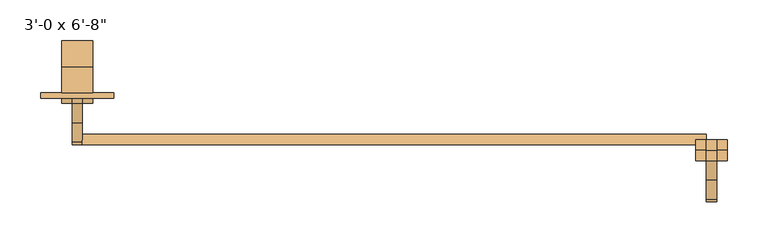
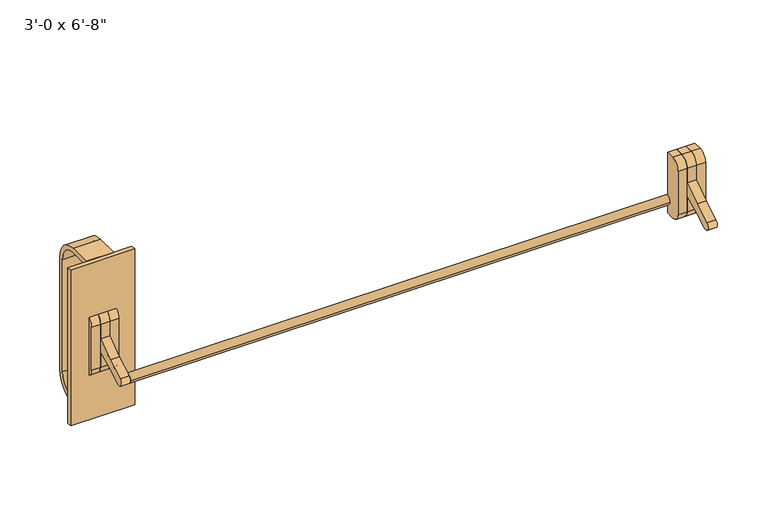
"""IFC4 building model written with IfcOpenShell, lengths in millimetres: door geometry."""

import ifcopenshell
import ifcopenshell.guid

model = None  # the IFC model being written
_history = None  # IfcOwnerHistory: only IFC2X3 demands one
_inside = {}  # id of a spatial element -> (the spatial element, [elements in it])
_under = {}  # id of a project, library or spatial element -> (it, [spatial elements below it])
_declared = {}  # id of a project -> (the project, [libraries it declares])
_typed = {}  # id of a type object -> (the type object, [elements of that type])
_made_of = {}  # id of a material, layer set ... -> (it, [elements and type objects made of it])


def new_model(schema):
    """Start an empty IFC model of exactly this schema.

    Asked for "IFC4X3", IfcOpenShell would pick the latest addendum, in which some entities
    have other attributes; the version numbers below select the first issue.
    IFC2X3 requires an IfcOwnerHistory on every rooted entity: one is made here for all.
    """
    global model, _history
    if schema == "IFC4X3":
        model = ifcopenshell.file(schema_version=(4, 3, 0, 0))
    else:
        model = ifcopenshell.file(schema=schema)
    _inside.clear()
    _under.clear()
    _declared.clear()
    _typed.clear()
    _made_of.clear()
    _history = None
    if model.schema == "IFC2X3":
        org = make("IfcOrganization", Name="unknown")
        user = make(
            "IfcPersonAndOrganization",
            ThePerson=make("IfcPerson", FamilyName="unknown"),
            TheOrganization=org,
        )
        app = make(
            "IfcApplication",
            ApplicationDeveloper=org,
            Version="unknown",
            ApplicationFullName="unknown",
            ApplicationIdentifier="unknown",
        )
        _history = make(
            "IfcOwnerHistory",
            OwningUser=user,
            OwningApplication=app,
            ChangeAction="ADDED",
            CreationDate=0,
        )
    return model


def make(cls, **values):
    """One entity of the class cls with the attributes given. An attribute that is None is left unset."""
    return model.create_entity(
        cls, **{name: value for name, value in values.items() if value is not None}
    )


def rooted(cls, **values):
    """An entity with a GlobalId (a new one), such as an element, a storey or a relation."""
    return make(cls, GlobalId=ifcopenshell.guid.new(), OwnerHistory=_history, **values)


def si_unit(unit_type, name, prefix=None):
    """IfcSIUnit, for example si_unit("LENGTHUNIT", "METRE", prefix="MILLI")."""
    return make("IfcSIUnit", UnitType=unit_type, Prefix=prefix, Name=name)


def assignment(units):
    """IfcUnitAssignment: the units of a project."""
    return None if units is None else make("IfcUnitAssignment", Units=units)


def point(xyz):
    """IfcCartesianPoint."""
    return None if xyz is None else make("IfcCartesianPoint", Coordinates=xyz)


def direction(xyz):
    """IfcDirection."""
    return None if xyz is None else make("IfcDirection", DirectionRatios=xyz)


def frame(location, z_axis=None, x_axis=None):
    """IfcAxis2Placement3D, a coordinate frame: its origin and axes. An axis left out is left unset."""
    return make(
        "IfcAxis2Placement3D",
        Location=point(location),
        Axis=direction(z_axis),
        RefDirection=direction(x_axis),
    )


def frame_2d(location, x_axis=None):
    """IfcAxis2Placement2D, a coordinate frame in the plane: its origin and x axis."""
    return make(
        "IfcAxis2Placement2D", Location=point(location), RefDirection=direction(x_axis)
    )


def origin():
    """The frame at (0, 0, 0) with its axes left unset."""
    return frame((0.0, 0.0, 0.0))


def place(relative_to, where):
    """IfcLocalPlacement: puts the frame where relative to a parent placement (None: the world)."""
    return make(
        "IfcLocalPlacement", PlacementRelTo=relative_to, RelativePlacement=where
    )


def context(
    kind, dimensions, precision=None, world=None, true_north=None, identifier=None
):
    """IfcGeometricRepresentationContext, for example the 3D "Model" context."""
    return make(
        "IfcGeometricRepresentationContext",
        ContextIdentifier=identifier,
        ContextType=kind,
        CoordinateSpaceDimension=dimensions,
        Precision=precision,
        WorldCoordinateSystem=world,
        TrueNorth=true_north,
    )


def project(units=None, contexts=None):
    """IfcProject with its units and contexts."""
    return rooted(
        "IfcProject",
        Name="project",
        RepresentationContexts=contexts,
        UnitsInContext=assignment(units),
    )


def spatial(cls, under=None, at=None, **own):
    """A site, building, storey or space (cls), placed at a placement, below another one or the project."""
    s = rooted(cls, ObjectPlacement=at, **own)
    if under is not None:
        _under.setdefault(under.id(), (under, []))[1].append(s)
    return s


def polyline(points):
    """IfcPolyline through the points."""
    return make("IfcPolyline", Points=[point(p) for p in points])


def circle_curve(where, radius):
    """IfcCircle in the frame where."""
    return make("IfcCircle", Position=where, Radius=radius)


def trimmed(basis, trim1, trim2, sense, master):
    """IfcTrimmedCurve: the piece of a basis curve between two trims."""
    return make(
        "IfcTrimmedCurve",
        BasisCurve=basis,
        Trim1=trim1,
        Trim2=trim2,
        SenseAgreement=sense,
        MasterRepresentation=master,
    )


def segment(curve, same_sense, transition):
    """IfcCompositeCurveSegment."""
    return make(
        "IfcCompositeCurveSegment",
        Transition=transition,
        SameSense=same_sense,
        ParentCurve=curve,
    )


def composite_curve(segments, self_intersect=None):
    """IfcCompositeCurve: segments joined end to end."""
    return make("IfcCompositeCurve", Segments=segments, SelfIntersect=self_intersect)


def outline(outer, holes=None, kind="AREA"):
    """IfcArbitraryClosedProfileDef: a profile drawn as a closed curve; with holes, ...WithVoids."""
    if holes is None:
        return make("IfcArbitraryClosedProfileDef", ProfileType=kind, OuterCurve=outer)
    return make(
        "IfcArbitraryProfileDefWithVoids",
        ProfileType=kind,
        OuterCurve=outer,
        InnerCurves=holes,
    )


def extrude(swept, where, along, depth):
    """IfcExtrudedAreaSolid: the profile swept, set in the frame where, extruded along a direction by depth."""
    return make(
        "IfcExtrudedAreaSolid",
        SweptArea=swept,
        Position=where,
        ExtrudedDirection=direction(along),
        Depth=depth,
    )


def shape(context_of_items, identifier, shape_type, items):
    """IfcShapeRepresentation: the items that make up one representation, for example the "Body"."""
    return make(
        "IfcShapeRepresentation",
        ContextOfItems=context_of_items,
        RepresentationIdentifier=identifier,
        RepresentationType=shape_type,
        Items=items,
    )


def source(mapping_origin, context_of_items, identifier, shape_type, items):
    """IfcRepresentationMap: a shape defined once, which mapped items show again and again."""
    return make(
        "IfcRepresentationMap",
        MappingOrigin=mapping_origin,
        MappedRepresentation=shape(context_of_items, identifier, shape_type, items),
    )


def transform(
    local_origin,
    x_axis=None,
    y_axis=None,
    z_axis=None,
    scale=None,
    scale2=None,
    scale3=None,
    uniform=True,
):
    """IfcCartesianTransformationOperator3D, or its non-uniform kind. x_axis, y_axis, z_axis: its Axis1, 2, 3."""
    if uniform:
        return make(
            "IfcCartesianTransformationOperator3D",
            Axis1=direction(x_axis),
            Axis2=direction(y_axis),
            LocalOrigin=point(local_origin),
            Scale=scale,
            Axis3=direction(z_axis),
        )
    return make(
        "IfcCartesianTransformationOperator3DnonUniform",
        Axis1=direction(x_axis),
        Axis2=direction(y_axis),
        LocalOrigin=point(local_origin),
        Scale=scale,
        Axis3=direction(z_axis),
        Scale2=scale2,
        Scale3=scale3,
    )


def mapped(mapping_source, mapping_target):
    """IfcMappedItem: shows the shape of a source again, moved by a transform."""
    return make(
        "IfcMappedItem", MappingSource=mapping_source, MappingTarget=mapping_target
    )


def made_of(thing, what):
    """Note that an element or type object is made of a material, layer set ...; save() writes the relation."""
    if what is not None:
        _made_of.setdefault(what.id(), (what, []))[1].append(thing)
    return thing


def element(
    cls,
    number,
    at=None,
    inside=None,
    cuts=None,
    type_object=None,
    material=None,
    context=None,
    identifier="Body",
    shape_type=None,
    held_by="IfcProductDefinitionShape",
    body=None,
    shapes=None,
    **own,
):
    """One element of the class cls, such as IfcWall. Its Tag is "e" and its number.

    at: its placement. inside: the storey or other place that contains it. cuts: it is an
    opening in that element (IfcRelVoidsElement). A single representation is given by context,
    identifier, shape_type and body (its items); several are given by shapes. held_by: the class
    of the entity that holds the representations. save() writes the other relations.
    """
    e = rooted(cls, Tag="e%d" % number, ObjectPlacement=at, **own)
    if body is not None:
        shapes = [shape(context, identifier, shape_type, body)]
    if shapes is not None:
        e.Representation = make(held_by, Representations=shapes)
    if inside is not None:
        _inside.setdefault(inside.id(), (inside, []))[1].append(e)
    if cuts is not None:
        rooted(
            "IfcRelVoidsElement", RelatingBuildingElement=cuts, RelatedOpeningElement=e
        )
    if type_object is not None:
        _typed.setdefault(type_object.id(), (type_object, []))[1].append(e)
    return made_of(e, material)


def aggregate(whole, parts):
    """IfcRelAggregates: a whole, such as a stair, and the parts it consists of."""
    return rooted("IfcRelAggregates", RelatingObject=whole, RelatedObjects=parts)


def save(model, path):
    """Write the relations noted so far, then the file.

    IfcRelAggregates (storeys below a building ...), IfcRelContainedInSpatialStructure (elements
    in a storey), IfcRelDefinesByType, IfcRelAssociatesMaterial and IfcRelDeclares: one each for
    every whole, place, type object, material and project.
    """
    for whole, parts in _under.values():
        aggregate(whole, parts)
    for where, things in _inside.values():
        rooted(
            "IfcRelContainedInSpatialStructure",
            RelatedElements=things,
            RelatingStructure=where,
        )
    for kind, things in _typed.values():
        rooted("IfcRelDefinesByType", RelatedObjects=things, RelatingType=kind)
    for what, things in _made_of.values():
        rooted("IfcRelAssociatesMaterial", RelatedObjects=things, RelatingMaterial=what)
    for by, libraries in _declared.values():
        rooted("IfcRelDeclares", RelatingContext=by, RelatedDefinitions=libraries)
    model.write(path)


def door_e7cd8011(model_context):
    return source(origin(), model_context, "Body", "SweptSolid", [
        extrude(outline(composite_curve([segment(polyline([(57.15, 907.9008138), (88.9, 907.9008138)]), True, "CONTINUOUS"), segment(trimmed(circle_curve(frame_2d((88.9, 933.3008138)), 25.4), [point((88.9, 907.9008138))], [point((114.3, 933.3008138))], True, "CARTESIAN"), True, "CONTINUOUS"), segment(polyline([(114.3, 933.3008138), (114.3, 1098.4008138)]), True, "CONTINUOUS"), segment(trimmed(circle_curve(frame_2d((88.9, 1098.4008138)), 25.4), [point((114.3, 1098.4008138))], [point((88.9, 1123.8008138))], True, "CARTESIAN"), True, "CONTINUOUS"), segment(polyline([(88.9, 1123.8008138), (57.15, 1123.8008138), (57.15, 1130.1508138), (88.9, 1130.1508138)]), True, "CONTINUOUS"), segment(trimmed(circle_curve(frame_2d((88.9, 1098.4008138)), 31.75), [point((88.9, 1130.1508138))], [point((120.65, 1098.4008138))], False, "CARTESIAN"), True, "CONTINUOUS"), segment(polyline([(120.65, 1098.4008138), (120.65, 933.3008138)]), True, "CONTINUOUS"), segment(trimmed(circle_curve(frame_2d((88.9, 933.3008138)), 31.75), [point((120.65, 933.3008138))], [point((88.9, 901.5508138))], False, "CARTESIAN"), True, "CONTINUOUS"), segment(polyline([(88.9, 901.5508138), (57.15, 901.5508138), (57.15, 907.9008138)]), True, "CONTINUOUS")], self_intersect=False)), frame((-406.2508138, 0.0, 0.0), z_axis=(1.0, 0.0, 0.0), x_axis=(0.0, 1.0, 0.0)), (0.0, 0.0, 1.0), 38.1),
        extrude(outline(composite_curve([segment(polyline([(57.15, 1022.2008138), (57.15, 1028.5508138), (74.2750827, 1018.6636427)]), True, "CONTINUOUS"), segment(trimmed(circle_curve(frame_2d((69.3996628, 1010.1946873)), 9.7720481), [point((74.2750827, 1018.6636427))], [point((79.1470453, 1009.5008138))], False, "CARTESIAN"), True, "CONTINUOUS"), segment(polyline([(79.1470453, 1009.5008138), (57.15, 1022.2008138)]), True, "CONTINUOUS")], self_intersect=False)), frame((-406.2508138, 0.0, 0.0), z_axis=(1.0, 0.0, 0.0), x_axis=(0.0, 1.0, 0.0)), (0.0, 0.0, 1.0), 38.1),
        extrude(outline(polyline([(-431.6508138, 57.15), (-342.7508138, 57.15), (-342.7508138, 50.8), (-431.6508138, 50.8), (-431.6508138, 57.15)])), frame((0.0, 0.0, 901.5508138), z_axis=(0.0, 0.0, 1.0), x_axis=(1.0, 0.0, 0.0)), (0.0, 0.0, 1.0), 228.6),
        extrude(outline(composite_curve([segment(trimmed(circle_curve(frame_2d((0.4559095, 984.25)), 6.35), [point((6.8059095, 984.25))], [point((-5.8940905, 984.25))], False, "CARTESIAN"), True, "CONTINUOUS"), segment(trimmed(circle_curve(frame_2d((0.4559095, 984.25)), 6.35), [point((-5.8940905, 984.25))], [point((6.8059095, 984.25))], False, "CARTESIAN"), True, "CONTINUOUS")], self_intersect=False)), frame((-381.0, 0.0, 0.0), z_axis=(1.0, 0.0, 0.0), x_axis=(0.0, 1.0, 0.0)), (0.0, 0.0, 1.0), 762.0),
        extrude(outline(composite_curve([segment(polyline([(0.0, 1054.1), (0.0, 965.2), (-12.7, 965.2)]), True, "CONTINUOUS"), segment(trimmed(circle_curve(frame_2d((-12.7, 977.9)), 12.7), [point((-12.7, 965.2))], [point((-25.4, 977.9))], False, "CARTESIAN"), True, "CONTINUOUS"), segment(polyline([(-25.4, 977.9), (-25.4, 1000.0513224), (-45.8095453, 990.5341951), (-66.2190905, 978.7507387)]), True, "CONTINUOUS"), segment(trimmed(circle_curve(frame_2d((-69.3940905, 984.25)), 6.35), [point((-66.2190905, 978.7507387))], [point((-72.5690905, 989.7492613))], False, "CARTESIAN"), True, "CONTINUOUS"), segment(polyline([(-72.5690905, 989.7492613), (-48.9845453, 1003.3658049), (-25.4, 1019.8798812), (-25.4, 1041.4)]), True, "CONTINUOUS"), segment(trimmed(circle_curve(frame_2d((-12.7, 1041.4)), 12.7), [point((-25.4, 1041.4))], [point((-12.7, 1054.1))], False, "CARTESIAN"), True, "CONTINUOUS"), segment(polyline([(-12.7, 1054.1), (0.0, 1054.1)]), True, "CONTINUOUS")], self_intersect=False)), frame((381.0, 0.0, 0.0), z_axis=(1.0, 0.0, 0.0), x_axis=(0.0, 1.0, 0.0)), (0.0, 0.0, 1.0), 12.7),
        extrude(outline(composite_curve([segment(polyline([(-12.7, 1054.1), (0.0, 1054.1), (0.0, 965.2), (-12.7, 965.2)]), True, "CONTINUOUS"), segment(trimmed(circle_curve(frame_2d((-12.7, 977.9)), 12.7), [point((-12.7, 965.2))], [point((-25.4, 977.9))], False, "CARTESIAN"), True, "CONTINUOUS"), segment(polyline([(-25.4, 977.9), (-25.4, 1041.4)]), True, "CONTINUOUS"), segment(trimmed(circle_curve(frame_2d((-12.7, 1041.4)), 12.7), [point((-25.4, 1041.4))], [point((-12.7, 1054.1))], False, "CARTESIAN"), True, "CONTINUOUS")], self_intersect=False)), frame((393.7, 0.0, 0.0), z_axis=(1.0, 0.0, 0.0), x_axis=(0.0, 1.0, 0.0)), (0.0, 0.0, 1.0), 12.7),
        extrude(outline(composite_curve([segment(polyline([(-12.7, 1054.1), (0.0, 1054.1), (0.0, 965.2), (-12.7, 965.2)]), True, "CONTINUOUS"), segment(trimmed(circle_curve(frame_2d((-12.7, 977.9)), 12.7), [point((-12.7, 965.2))], [point((-25.4, 977.9))], False, "CARTESIAN"), True, "CONTINUOUS"), segment(polyline([(-25.4, 977.9), (-25.4, 1041.4)]), True, "CONTINUOUS"), segment(trimmed(circle_curve(frame_2d((-12.7, 1041.4)), 12.7), [point((-25.4, 1041.4))], [point((-12.7, 1054.1))], False, "CARTESIAN"), True, "CONTINUOUS")], self_intersect=False)), frame((368.3, 0.0, 0.0), z_axis=(1.0, 0.0, 0.0), x_axis=(0.0, 1.0, 0.0)), (0.0, 0.0, 1.0), 12.7),
        extrude(outline(composite_curve([segment(polyline([(69.85, 1054.1), (69.85, 965.2), (57.15, 965.2)]), True, "CONTINUOUS"), segment(trimmed(circle_curve(frame_2d((57.15, 977.9)), 12.7), [point((57.15, 965.2))], [point((44.45, 977.9))], False, "CARTESIAN"), True, "CONTINUOUS"), segment(polyline([(44.45, 977.9), (44.45, 1000.0513224), (24.0404547, 990.5341951), (3.6309095, 978.7507387)]), True, "CONTINUOUS"), segment(trimmed(circle_curve(frame_2d((0.4559095, 984.25)), 6.35), [point((3.6309095, 978.7507387))], [point((-2.7190905, 989.7492613))], False, "CARTESIAN"), True, "CONTINUOUS"), segment(polyline([(-2.7190905, 989.7492613), (20.8654547, 1003.3658049), (44.45, 1019.8798812), (44.45, 1041.4)]), True, "CONTINUOUS"), segment(trimmed(circle_curve(frame_2d((57.15, 1041.4)), 12.7), [point((44.45, 1041.4))], [point((57.15, 1054.1))], False, "CARTESIAN"), True, "CONTINUOUS"), segment(polyline([(57.15, 1054.1), (69.85, 1054.1)]), True, "CONTINUOUS")], self_intersect=False)), frame((-393.7, 0.0, 0.0), z_axis=(1.0, 0.0, 0.0), x_axis=(0.0, 1.0, 0.0)), (0.0, 0.0, 1.0), 12.7),
        extrude(outline(composite_curve([segment(polyline([(57.15, 1054.1), (69.85, 1054.1), (69.85, 965.2), (57.15, 965.2)]), True, "CONTINUOUS"), segment(trimmed(circle_curve(frame_2d((57.15, 977.9)), 12.7), [point((57.15, 965.2))], [point((44.45, 977.9))], False, "CARTESIAN"), True, "CONTINUOUS"), segment(polyline([(44.45, 977.9), (44.45, 1041.4)]), True, "CONTINUOUS"), segment(trimmed(circle_curve(frame_2d((57.15, 1041.4)), 12.7), [point((44.45, 1041.4))], [point((57.15, 1054.1))], False, "CARTESIAN"), True, "CONTINUOUS")], self_intersect=False)), frame((-381.0, 0.0, 0.0), z_axis=(1.0, 0.0, 0.0), x_axis=(0.0, 1.0, 0.0)), (0.0, 0.0, 1.0), 12.7),
        extrude(outline(composite_curve([segment(polyline([(57.15, 1054.1), (69.85, 1054.1), (69.85, 965.2), (57.15, 965.2)]), True, "CONTINUOUS"), segment(trimmed(circle_curve(frame_2d((57.15, 977.9)), 12.7), [point((57.15, 965.2))], [point((44.45, 977.9))], False, "CARTESIAN"), True, "CONTINUOUS"), segment(polyline([(44.45, 977.9), (44.45, 1041.4)]), True, "CONTINUOUS"), segment(trimmed(circle_curve(frame_2d((57.15, 1041.4)), 12.7), [point((44.45, 1041.4))], [point((57.15, 1054.1))], False, "CARTESIAN"), True, "CONTINUOUS")], self_intersect=False)), frame((-406.4, 0.0, 0.0), z_axis=(1.0, 0.0, 0.0), x_axis=(0.0, 1.0, 0.0)), (0.0, 0.0, 1.0), 12.7),
    ])


if __name__ == "__main__":
    model = new_model("IFC4")
    model_context = context("Model", 3, world=origin())
    ifc_project = project(units=[si_unit("LENGTHUNIT", "METRE", prefix="MILLI")], contexts=[model_context])
    site = spatial("IfcSite", under=ifc_project)
    building = spatial("IfcBuilding", under=site)
    placement = place(None, origin())
    door_shape = door_e7cd8011(model_context)
    element("IfcDoor", 1, ObjectType="Planitar - Single Door : 3'-0 x 6'-8\"", at=placement, inside=building, context=model_context, shape_type="MappedRepresentation", body=[
        mapped(door_shape, transform((0.0, 0.0, 0.0), x_axis=(1.0, 0.0, 0.0), y_axis=(0.0, 1.0, 0.0), z_axis=(0.0, 0.0, 1.0))),
    ])
    save(model, "model.ifc")
